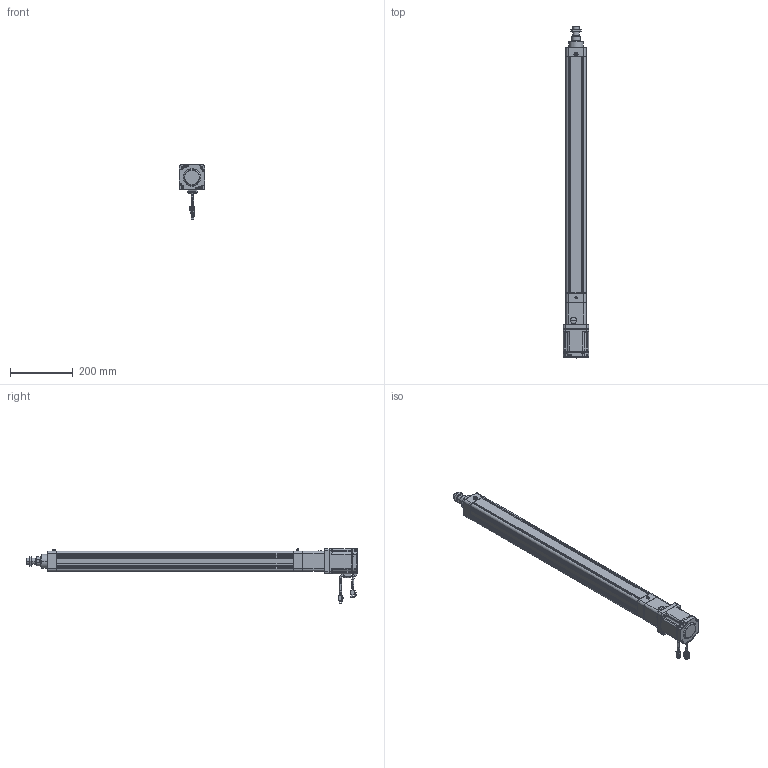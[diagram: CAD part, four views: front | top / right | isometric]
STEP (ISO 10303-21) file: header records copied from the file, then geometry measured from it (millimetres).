
FILE_DESCRIPTION((''),'2;1');
FILE_NAME('HE50-D-100-X1_ASM','2020-04-03T',('ASUS20200'),(''),'CREO PARAMETRIC BY PTC INC, 2014190','CREO PARAMETRIC BY PTC INC, 2014190','');
FILE_SCHEMA(('CONFIG_CONTROL_DESIGN'));
Length unit declared in the file: millimetre
Products named in the file (25): HE50-D-P-001-X1; HE50-D-P-002-X1; HE50-D-P-003-X1; HE50-D-009-X1; HE50-D-010-X1; 6301ZZ; LGLM-M8-22; SKT-16; SLM-01; YZ-M6X1; _MHMF082L1A2; _CABLE_MOTOR_BOTTOM_05; _CABLE_MOTOR_TOP_05; _MOTOR_CONNECTOR_2; _CABLE_BRAKE_BOTTOM_05; _CABLE_BRAKE_TOP_05; _MHMF_CONNECTOR_9_PIN_A6; MHMF082L1A2M2_1_ASM; M6X16; JX6X6X20; JDB303820; HE50-D-P-005-X1; HE50-D-P-004-X1; HE50-D-P-008-X1; HE50-D-100-X1_ASM
Assembly tree (35 placements, depth 3):
  HE50-D-100-X1_ASM
    HE50-D-P-001-X1
    HE50-D-P-002-X1
    HE50-D-P-003-X1
    HE50-D-009-X1
    HE50-D-010-X1
    6301ZZ  x2
    LGLM-M8-22  x8
    SKT-16
    SLM-01
    YZ-M6X1
    MHMF082L1A2M2_1_ASM
      _MHMF082L1A2
      _CABLE_MOTOR_BOTTOM_05
      _CABLE_MOTOR_TOP_05
      _MOTOR_CONNECTOR_2
      _CABLE_BRAKE_BOTTOM_05
      _CABLE_BRAKE_TOP_05
      _MHMF_CONNECTOR_9_PIN_A6
    M6X16  x4
    JX6X6X20
    JDB303820
    HE50-D-P-005-X1
    HE50-D-P-004-X1
    HE50-D-P-008-X1
Bounding box: 80 x 1058.4 x 173.65 mm (x, y, z)
Volume: 2361826.6 mm3; surface area: 677376.1 mm2
Topology: 34 solids, 62 shells, 2504 faces, 6095 edges, 3789 vertices
Faces by surface type: plane 1069, cylinder 721, cone 557, torus 110, sphere 44, bspline 3
Entity records: 65072 total; most frequent: CARTESIAN_POINT 12314, DIRECTION 11533, ORIENTED_EDGE 10426, EDGE_CURVE 5259, AXIS2_PLACEMENT_3D 4293, VERTEX_POINT 3294, VECTOR 2947, LINE 2947
